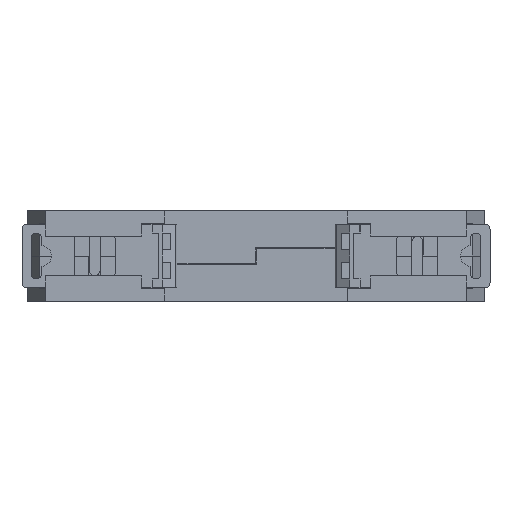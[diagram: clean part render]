
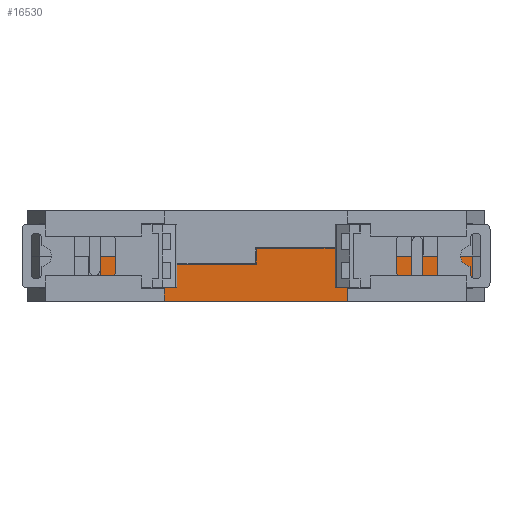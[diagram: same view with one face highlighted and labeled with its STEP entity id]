
A CAD part, front view. The second image highlights one B-rep face of the part: STEP entity #16530.
In plain terms, the highlighted planar face has unit normal (0, -1, 0).
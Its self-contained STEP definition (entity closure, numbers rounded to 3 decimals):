
#285 = AXIS2_PLACEMENT_3D ( 'NONE', #623, #39287, #4212 ) ;
#606 = CARTESIAN_POINT ( 'NONE',  ( 18., 0., 2.5 ) ) ;
#623 = CARTESIAN_POINT ( 'NONE',  ( 42.4, 0., 8.9 ) ) ;
#642 = VERTEX_POINT ( 'NONE', #36576 ) ;
#2279 = VERTEX_POINT ( 'NONE', #11191 ) ;
#2889 = LINE ( 'NONE', #7202, #3883 ) ;
#3041 = ORIENTED_EDGE ( 'NONE', *, *, #42225, .F. ) ;
#3883 = VECTOR ( 'NONE', #25121, 1000. ) ;
#3901 = CARTESIAN_POINT ( 'NONE',  ( 42.4, 0., 8.9 ) ) ;
#4212 = DIRECTION ( 'NONE',  ( -1., 0., 0. ) ) ;
#4512 = DIRECTION ( 'NONE',  ( 0., 0., -1. ) ) ;
#5881 = DIRECTION ( 'NONE',  ( 1., 0., 0. ) ) ;
#6502 = VERTEX_POINT ( 'NONE', #42454 ) ;
#6789 = CARTESIAN_POINT ( 'NONE',  ( -18., 0., 2.5 ) ) ;
#7202 = CARTESIAN_POINT ( 'NONE',  ( 0.05, 0., 10.4 ) ) ;
#7518 = DIRECTION ( 'NONE',  ( 1., 0., 0. ) ) ;
#7613 = EDGE_LOOP ( 'NONE', ( #12689, #28754, #17145, #15147, #13886, #9830, #26300, #3041, #15858, #30315, #17178, #34060, #15908, #9806 ) ) ;
#7750 = EDGE_CURVE ( 'NONE', #45192, #34619, #22764, .T. ) ;
#8495 = DIRECTION ( 'NONE',  ( 1., 0., 0. ) ) ;
#9094 = CARTESIAN_POINT ( 'NONE',  ( -18., 0., 0. ) ) ;
#9149 = VECTOR ( 'NONE', #4512, 1000. ) ;
#9309 = VECTOR ( 'NONE', #30847, 1000. ) ;
#9745 = VECTOR ( 'NONE', #7518, 1000. ) ;
#9806 = ORIENTED_EDGE ( 'NONE', *, *, #40103, .T. ) ;
#9830 = ORIENTED_EDGE ( 'NONE', *, *, #35109, .F. ) ;
#10938 = CARTESIAN_POINT ( 'NONE',  ( 42.4, 0., 8.9 ) ) ;
#11191 = CARTESIAN_POINT ( 'NONE',  ( 18., 0., 2.5 ) ) ;
#11925 = CARTESIAN_POINT ( 'NONE',  ( -30.5, 0., 2.5 ) ) ;
#12075 = VECTOR ( 'NONE', #33727, 1000. ) ;
#12194 = CARTESIAN_POINT ( 'NONE',  ( 42.4, 0., 2.5 ) ) ;
#12400 = CARTESIAN_POINT ( 'NONE',  ( -30.5, 0., -0.246 ) ) ;
#12689 = ORIENTED_EDGE ( 'NONE', *, *, #27647, .F. ) ;
#13166 = CARTESIAN_POINT ( 'NONE',  ( -42.4, 0., 2.5 ) ) ;
#13886 = ORIENTED_EDGE ( 'NONE', *, *, #7750, .T. ) ;
#14067 = EDGE_CURVE ( 'NONE', #2279, #37084, #15972, .T. ) ;
#14393 = LINE ( 'NONE', #27133, #31436 ) ;
#14506 = LINE ( 'NONE', #13166, #14747 ) ;
#14747 = VECTOR ( 'NONE', #20329, 1000. ) ;
#15059 = LINE ( 'NONE', #32529, #30675 ) ;
#15147 = ORIENTED_EDGE ( 'NONE', *, *, #24699, .T. ) ;
#15738 = LINE ( 'NONE', #38566, #15977 ) ;
#15858 = ORIENTED_EDGE ( 'NONE', *, *, #38567, .F. ) ;
#15908 = ORIENTED_EDGE ( 'NONE', *, *, #43980, .F. ) ;
#15972 = LINE ( 'NONE', #12194, #31595 ) ;
#15977 = VECTOR ( 'NONE', #45917, 1000. ) ;
#16196 = CARTESIAN_POINT ( 'NONE',  ( 17.9, 0., 10.4 ) ) ;
#16270 = CARTESIAN_POINT ( 'NONE',  ( 0.05, 0., 10.4 ) ) ;
#16489 = EDGE_CURVE ( 'NONE', #17219, #6502, #2889, .T. ) ;
#16530 = ADVANCED_FACE ( 'NONE', ( #35067 ), #40261, .F. ) ;
#17087 = CARTESIAN_POINT ( 'NONE',  ( 18., 0., 0. ) ) ;
#17145 = ORIENTED_EDGE ( 'NONE', *, *, #41110, .T. ) ;
#17154 = CARTESIAN_POINT ( 'NONE',  ( -18., 0., 8.9 ) ) ;
#17178 = ORIENTED_EDGE ( 'NONE', *, *, #35363, .F. ) ;
#17219 = VERTEX_POINT ( 'NONE', #16270 ) ;
#17933 = CARTESIAN_POINT ( 'NONE',  ( 42.4, 0., 2.5 ) ) ;
#17979 = DIRECTION ( 'NONE',  ( 1., 0., 0. ) ) ;
#18104 = CARTESIAN_POINT ( 'NONE',  ( 17.9, 0., 8.9 ) ) ;
#18169 = CARTESIAN_POINT ( 'NONE',  ( -18., 0., 7.3 ) ) ;
#19396 = VERTEX_POINT ( 'NONE', #17154 ) ;
#20262 = EDGE_CURVE ( 'NONE', #36058, #642, #43309, .T. ) ;
#20329 = DIRECTION ( 'NONE',  ( 1., 0., 0. ) ) ;
#20983 = CARTESIAN_POINT ( 'NONE',  ( 42.4, 0., 0. ) ) ;
#21453 = VERTEX_POINT ( 'NONE', #18104 ) ;
#22375 = VECTOR ( 'NONE', #17979, 1000. ) ;
#22764 = LINE ( 'NONE', #20983, #22375 ) ;
#23283 = DIRECTION ( 'NONE',  ( 0., 0., -1. ) ) ;
#23919 = LINE ( 'NONE', #18169, #24163 ) ;
#23929 = CARTESIAN_POINT ( 'NONE',  ( -18., 0., 2.5 ) ) ;
#24163 = VECTOR ( 'NONE', #29385, 1000. ) ;
#24699 = EDGE_CURVE ( 'NONE', #27773, #45192, #31647, .T. ) ;
#25121 = DIRECTION ( 'NONE',  ( 0., 0., -1. ) ) ;
#25528 = VERTEX_POINT ( 'NONE', #33439 ) ;
#25605 = VERTEX_POINT ( 'NONE', #26576 ) ;
#25710 = LINE ( 'NONE', #26683, #9309 ) ;
#26300 = ORIENTED_EDGE ( 'NONE', *, *, #14067, .T. ) ;
#26576 = CARTESIAN_POINT ( 'NONE',  ( -18., 0., 7.3 ) ) ;
#26683 = CARTESIAN_POINT ( 'NONE',  ( 17.9, 0., 10.4 ) ) ;
#27133 = CARTESIAN_POINT ( 'NONE',  ( 0.05, 0., 7.3 ) ) ;
#27647 = EDGE_CURVE ( 'NONE', #642, #19396, #40945, .T. ) ;
#27773 = VERTEX_POINT ( 'NONE', #23929 ) ;
#28754 = ORIENTED_EDGE ( 'NONE', *, *, #20262, .F. ) ;
#29385 = DIRECTION ( 'NONE',  ( 0., 0., 1. ) ) ;
#30315 = ORIENTED_EDGE ( 'NONE', *, *, #44033, .F. ) ;
#30496 = VECTOR ( 'NONE', #42910, 1000. ) ;
#30675 = VECTOR ( 'NONE', #39550, 1000. ) ;
#30847 = DIRECTION ( 'NONE',  ( 1., 0., 0. ) ) ;
#31436 = VECTOR ( 'NONE', #5881, 1000. ) ;
#31595 = VECTOR ( 'NONE', #8495, 1000. ) ;
#31647 = LINE ( 'NONE', #6789, #30496 ) ;
#32529 = CARTESIAN_POINT ( 'NONE',  ( 17.9, 0., 10.4 ) ) ;
#33439 = CARTESIAN_POINT ( 'NONE',  ( 42.4, 0., 8.9 ) ) ;
#33727 = DIRECTION ( 'NONE',  ( 0., 0., 1. ) ) ;
#34060 = ORIENTED_EDGE ( 'NONE', *, *, #16489, .T. ) ;
#34619 = VERTEX_POINT ( 'NONE', #17087 ) ;
#35067 = FACE_OUTER_BOUND ( 'NONE', #7613, .T. ) ;
#35109 = EDGE_CURVE ( 'NONE', #2279, #34619, #41058, .T. ) ;
#35363 = EDGE_CURVE ( 'NONE', #17219, #44841, #25710, .T. ) ;
#36058 = VERTEX_POINT ( 'NONE', #11925 ) ;
#36576 = CARTESIAN_POINT ( 'NONE',  ( -30.5, 0., 8.9 ) ) ;
#37084 = VERTEX_POINT ( 'NONE', #17933 ) ;
#37332 = LINE ( 'NONE', #3901, #37413 ) ;
#37413 = VECTOR ( 'NONE', #23283, 1000. ) ;
#38566 = CARTESIAN_POINT ( 'NONE',  ( 42.4, 0., 8.9 ) ) ;
#38567 = EDGE_CURVE ( 'NONE', #21453, #25528, #15738, .T. ) ;
#39287 = DIRECTION ( 'NONE',  ( 0., 1., 0. ) ) ;
#39550 = DIRECTION ( 'NONE',  ( 0., 0., -1. ) ) ;
#40103 = EDGE_CURVE ( 'NONE', #25605, #19396, #23919, .T. ) ;
#40261 = PLANE ( 'NONE',  #285 ) ;
#40945 = LINE ( 'NONE', #10938, #9745 ) ;
#41058 = LINE ( 'NONE', #606, #9149 ) ;
#41110 = EDGE_CURVE ( 'NONE', #36058, #27773, #14506, .T. ) ;
#42225 = EDGE_CURVE ( 'NONE', #25528, #37084, #37332, .T. ) ;
#42454 = CARTESIAN_POINT ( 'NONE',  ( 0.05, 0., 7.3 ) ) ;
#42910 = DIRECTION ( 'NONE',  ( 0., 0., -1. ) ) ;
#43309 = LINE ( 'NONE', #12400, #12075 ) ;
#43980 = EDGE_CURVE ( 'NONE', #25605, #6502, #14393, .T. ) ;
#44033 = EDGE_CURVE ( 'NONE', #44841, #21453, #15059, .T. ) ;
#44841 = VERTEX_POINT ( 'NONE', #16196 ) ;
#45192 = VERTEX_POINT ( 'NONE', #9094 ) ;
#45917 = DIRECTION ( 'NONE',  ( 1., 0., 0. ) ) ;
